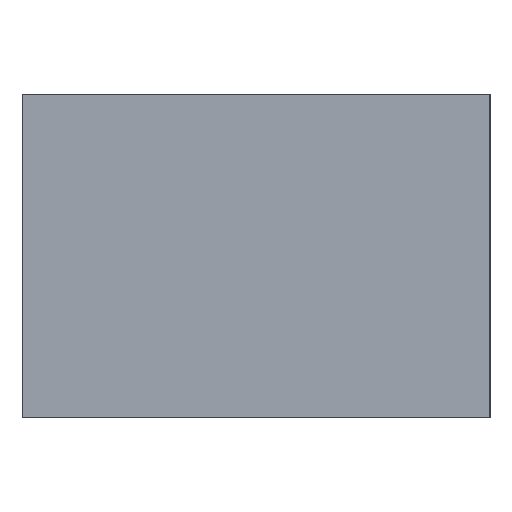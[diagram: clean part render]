
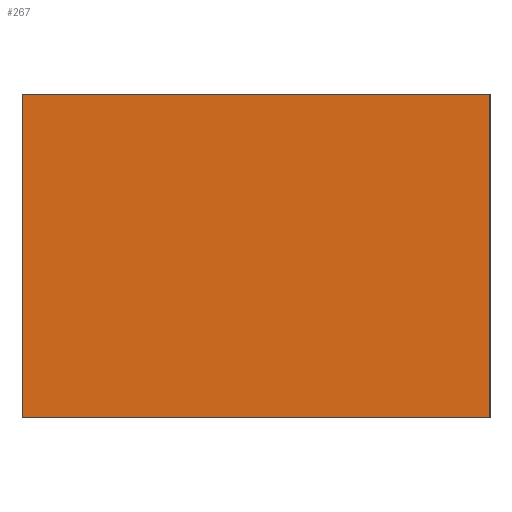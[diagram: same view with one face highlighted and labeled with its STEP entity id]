
A CAD part, left-side view. The second image highlights one B-rep face of the part: STEP entity #267.
In plain terms, the highlighted planar face has unit normal (-1, 0, 0).
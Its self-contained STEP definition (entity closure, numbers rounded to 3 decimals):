
#267=ADVANCED_FACE('',(#698),#700,.T.);
#698=FACE_BOUND('',#699,.T.);
#699=EDGE_LOOP('',(#1025,#1026,#1027,#1028));
#700=PLANE('',#701);
#701=AXIS2_PLACEMENT_3D('',#702,#703,#704);
#702=CARTESIAN_POINT('',(-0.5,0.275,0.355));
#703=DIRECTION('',(-1.,-0.,-0.));
#704=DIRECTION('',(0.,0.,-1.));
#1025=ORIENTED_EDGE('',*,*,#1232,.T.);
#1026=ORIENTED_EDGE('',*,*,#1241,.T.);
#1027=ORIENTED_EDGE('',*,*,#1235,.F.);
#1028=ORIENTED_EDGE('',*,*,#1242,.F.);
#1232=EDGE_CURVE('',#1374,#1372,#1375,.T.);
#1235=EDGE_CURVE('',#1378,#1380,#1381,.T.);
#1241=EDGE_CURVE('',#1372,#1380,#1388,.T.);
#1242=EDGE_CURVE('',#1374,#1378,#1389,.T.);
#1372=VERTEX_POINT('',#1625);
#1374=VERTEX_POINT('',#1629);
#1375=LINE('',#1630,#1631);
#1378=VERTEX_POINT('',#1637);
#1380=VERTEX_POINT('',#1641);
#1381=LINE('',#1642,#1643);
#1388=LINE('',#1661,#1662);
#1389=LINE('',#1664,#1665);
#1625=CARTESIAN_POINT('',(-0.5,0.275,-0.025));
#1629=CARTESIAN_POINT('',(-0.5,0.275,0.355));
#1630=CARTESIAN_POINT('',(-0.5,0.275,0.355));
#1631=VECTOR('',#1632,1.);
#1632=DIRECTION('',(0.,0.,-1.));
#1637=CARTESIAN_POINT('',(-0.5,-0.275,0.355));
#1641=CARTESIAN_POINT('',(-0.5,-0.275,-0.025));
#1642=CARTESIAN_POINT('',(-0.5,-0.275,0.355));
#1643=VECTOR('',#1644,1.);
#1644=DIRECTION('',(0.,0.,-1.));
#1661=CARTESIAN_POINT('',(-0.5,0.275,-0.025));
#1662=VECTOR('',#1663,1.);
#1663=DIRECTION('',(0.,-1.,0.));
#1664=CARTESIAN_POINT('',(-0.5,0.275,0.355));
#1665=VECTOR('',#1666,1.);
#1666=DIRECTION('',(0.,-1.,0.));
